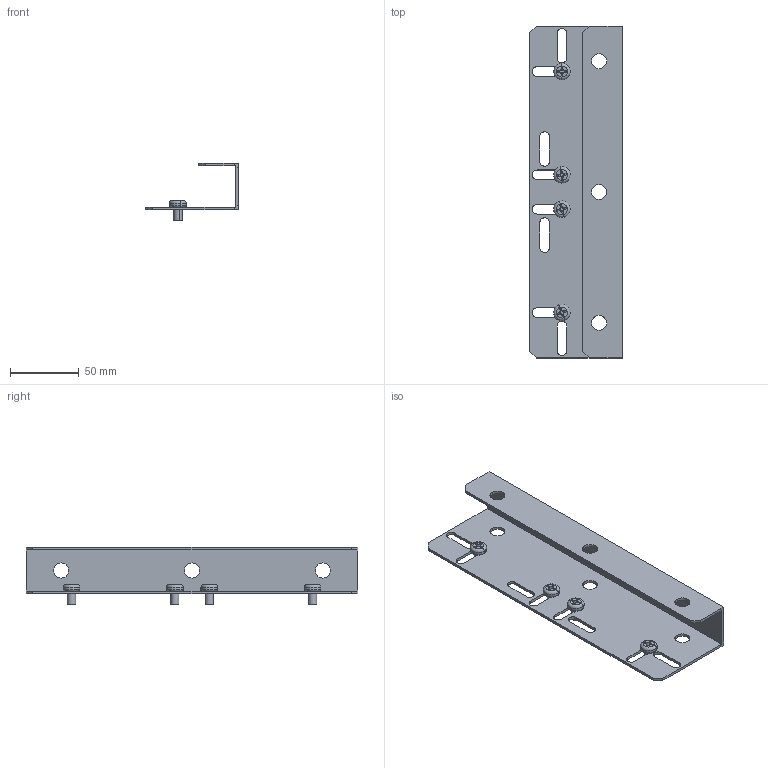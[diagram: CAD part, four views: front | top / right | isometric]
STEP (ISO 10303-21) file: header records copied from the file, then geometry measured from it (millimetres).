
FILE_DESCRIPTION (( 'STEP AP214' ), '1' );
FILE_NAME ('FO-00-SID3P Êîìïëåêò ïëàíêè îïîðíûõ èçîëÿòîðîâ ARMAT ACB òèïîðàçìåð D 3P.STEP', '2025-08-04T10:50:18', ( '' ), ( '' ), 'SwSTEP 2.0', 'SolidWorks 2023', '' );
FILE_SCHEMA (( 'AUTOMOTIVE_DESIGN' ));
Length unit declared in the file: millimetre
Products named in the file (3): Винт М6х10 IEK; Комплект планки опорных изоляторов ARMAT ACB типоразмер D 3P; FO-00-SID3P Комплект планки опорных изоляторов ARMAT ACB типоразмер D 3P
Assembly tree (5 placements, depth 2):
  FO-00-SID3P Комплект планки опорных изоляторов ARMAT ACB типоразмер D 3P
    Комплект планки опорных изоляторов ARMAT ACB типоразмер D 3P
    Винт М6х10 IEK  x4
Bounding box: 67.5 x 241 x 42 mm (x, y, z)
Volume: 59502 mm3; surface area: 61992.7 mm2
Topology: 5 solids, 5 shells, 200 faces, 522 edges, 340 vertices
Faces by surface type: plane 86, cylinder 54, cone 44, torus 16
Entity records: 3643 total; most frequent: CARTESIAN_POINT 632, DIRECTION 631, ORIENTED_EDGE 594, EDGE_CURVE 297, AXIS2_PLACEMENT_3D 227, VERTEX_POINT 196, VECTOR 177, LINE 177
